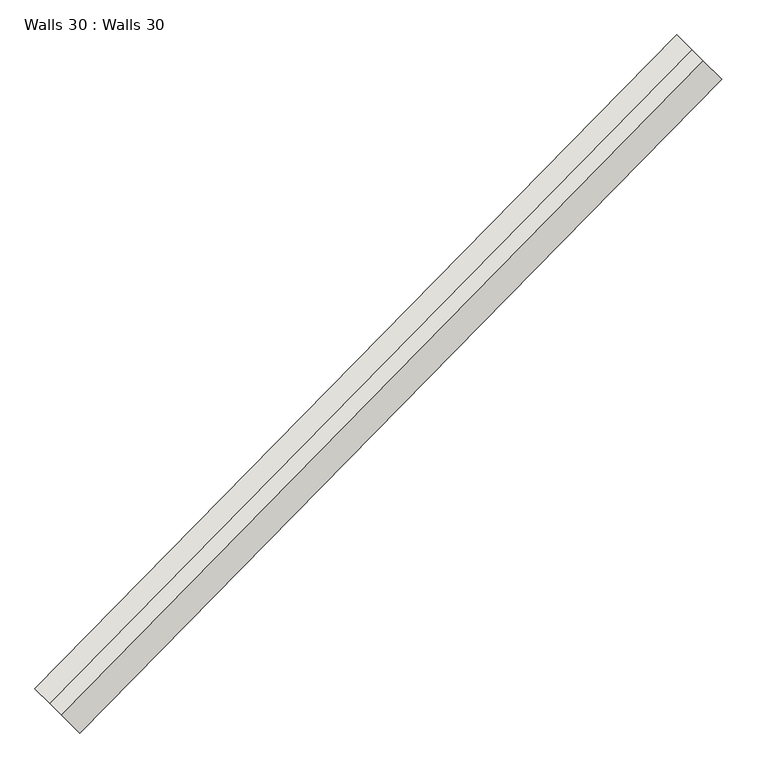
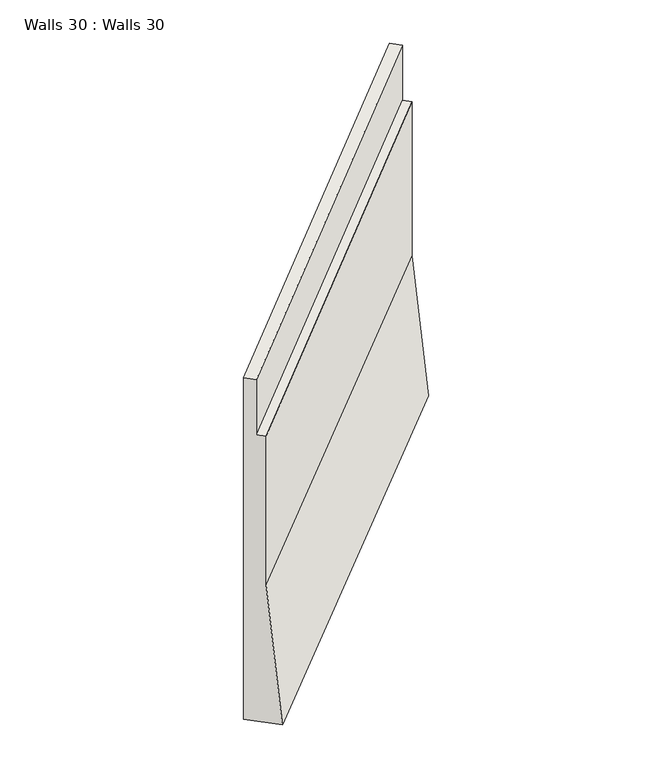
"""IFC4 building model written with IfcOpenShell, lengths in millimetres: wall geometry, Walls 30 : Walls 30."""

from ifc_helpers import new_model, si_unit, origin, place, context, project, spatial, faceted_brep, source, transform, mapped, element, save


def walls_30_walls_30_b09c9db7(model_context):
    return source(origin(), model_context, "Body", "Brep", [
        faceted_brep([(-209132.9036981, -368454.580644, 641990.0), (-209132.9036981, -368454.580644, 635790.0), (-208704.6832181, -368874.8535552, 635790.0), (-208883.1096927, -368699.7385913, 638290.0), (-208883.1096927, -368699.7385913, 640990.0), (-208990.1642664, -368594.6708996, 640990.0), (-208990.1642664, -368594.6708996, 641990.0), (-203038.964254, -362245.4017887, 642170.0), (-202896.2248223, -362385.4920442, 642170.0), (-202896.2248223, -362385.4920442, 641170.0), (-202789.1702486, -362490.5597359, 641170.0), (-202789.1702486, -362490.5597359, 638370.0), (-202610.743774, -362665.6746998, 635870.0), (-203038.964254, -362245.4017887, 635870.0)], [[[0, 1, 2, 3, 4, 5, 6]], [[7, 8, 9, 10, 11, 12, 13]], [[7, 13, 1, 0]], [[13, 12, 2, 1]], [[12, 11, 3, 2]], [[11, 10, 4, 3]], [[10, 9, 5, 4]], [[9, 8, 6, 5]], [[8, 7, 0, 6]]]),
    ])


if __name__ == "__main__":
    model = new_model("IFC4")
    model_context = context("Model", 3, world=origin())
    ifc_project = project(units=[si_unit("LENGTHUNIT", "METRE", prefix="MILLI")], contexts=[model_context])
    site = spatial("IfcSite", under=ifc_project)
    building = spatial("IfcBuilding", under=site)
    placement = place(None, origin())
    walls_30_walls_30_shape = walls_30_walls_30_b09c9db7(model_context)
    element("IfcWall", 1, ObjectType="Walls 30 : Walls 30", at=placement, inside=building, context=model_context, shape_type="MappedRepresentation", body=[
        mapped(walls_30_walls_30_shape, transform((0.0, 0.0, 0.0), x_axis=(1.0, 0.0, 0.0), y_axis=(0.0, 1.0, 0.0), z_axis=(0.0, 0.0, 1.0))),
    ])
    save(model, "model.ifc")
